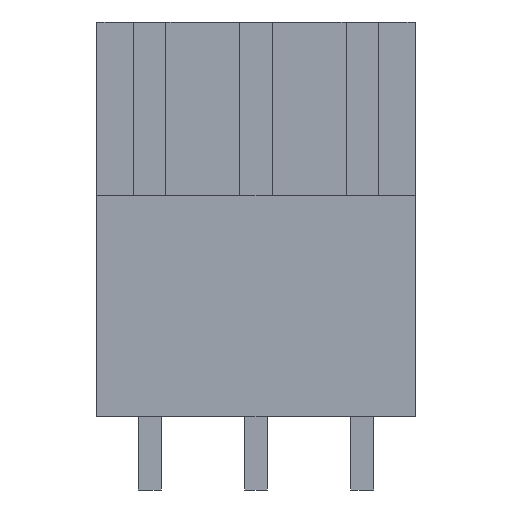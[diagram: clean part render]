
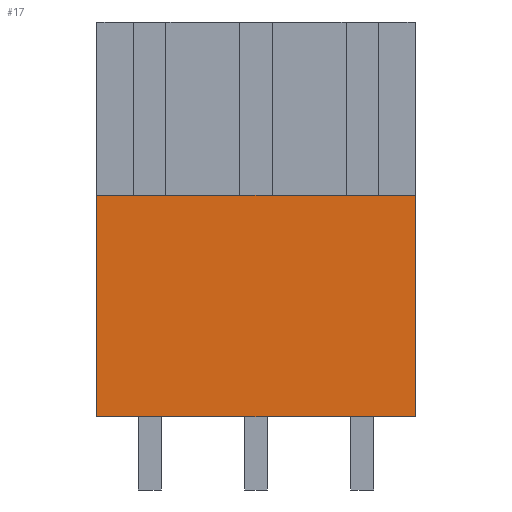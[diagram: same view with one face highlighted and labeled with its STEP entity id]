
A CAD part, front view. The second image highlights one B-rep face of the part: STEP entity #17.
In plain terms, the highlighted planar face has unit normal (0, -1, 0).
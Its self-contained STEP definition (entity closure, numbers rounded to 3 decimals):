
#17 = ADVANCED_FACE('',(#18),#52,.F.);
#18 = FACE_BOUND('',#19,.F.);
#19 = EDGE_LOOP('',(#20,#30,#38,#46));
#20 = ORIENTED_EDGE('',*,*,#21,.T.);
#21 = EDGE_CURVE('',#22,#24,#26,.T.);
#22 = VERTEX_POINT('',#23);
#23 = CARTESIAN_POINT('',(-2.54,-4.,0.));
#24 = VERTEX_POINT('',#25);
#25 = CARTESIAN_POINT('',(-2.54,-4.,10.6));
#26 = LINE('',#27,#28);
#27 = CARTESIAN_POINT('',(-2.54,-4.,0.));
#28 = VECTOR('',#29,1.);
#29 = DIRECTION('',(0.,0.,1.));
#30 = ORIENTED_EDGE('',*,*,#31,.T.);
#31 = EDGE_CURVE('',#24,#32,#34,.T.);
#32 = VERTEX_POINT('',#33);
#33 = CARTESIAN_POINT('',(12.7,-4.,10.6));
#34 = LINE('',#35,#36);
#35 = CARTESIAN_POINT('',(-2.54,-4.,10.6));
#36 = VECTOR('',#37,1.);
#37 = DIRECTION('',(1.,0.,0.));
#38 = ORIENTED_EDGE('',*,*,#39,.F.);
#39 = EDGE_CURVE('',#40,#32,#42,.T.);
#40 = VERTEX_POINT('',#41);
#41 = CARTESIAN_POINT('',(12.7,-4.,0.));
#42 = LINE('',#43,#44);
#43 = CARTESIAN_POINT('',(12.7,-4.,0.));
#44 = VECTOR('',#45,1.);
#45 = DIRECTION('',(0.,0.,1.));
#46 = ORIENTED_EDGE('',*,*,#47,.F.);
#47 = EDGE_CURVE('',#22,#40,#48,.T.);
#48 = LINE('',#49,#50);
#49 = CARTESIAN_POINT('',(-2.54,-4.,0.));
#50 = VECTOR('',#51,1.);
#51 = DIRECTION('',(1.,0.,0.));
#52 = PLANE('',#53);
#53 = AXIS2_PLACEMENT_3D('',#54,#55,#56);
#54 = CARTESIAN_POINT('',(-2.54,-4.,0.));
#55 = DIRECTION('',(0.,1.,0.));
#56 = DIRECTION('',(1.,0.,0.));
